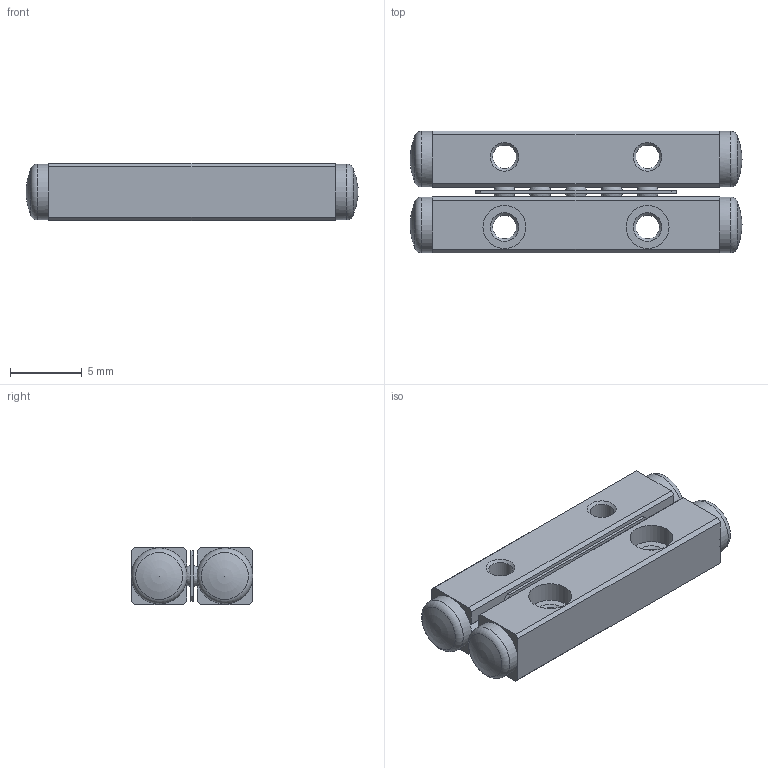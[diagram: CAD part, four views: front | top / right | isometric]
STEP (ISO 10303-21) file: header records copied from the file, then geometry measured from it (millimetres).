
FILE_DESCRIPTION(/* description */ ('STEP AP214'),/* implementation_level */ '2;1');
FILE_NAME(/* name */ 'VB1-20Hx5Z(0)',/* time_stamp */ '2024-09-19T10:02:14+02:00',/* author */ ('License CC BY-ND 4.0'),/* organization */ ('CADENAS'),/* preprocessor_version */ 'ST-DEVELOPER v19.3',/* originating_system */ 'PARTsolutions',/* authorisation */ ' ');
FILE_SCHEMA (('AUTOMOTIVE_DESIGN {1 0 10303 214 3 1 1}'));
Length unit declared in the file: millimetre
Products named in the file (3): VB1-20Hx5Z(0); VR1-20*5Z Ball guide; VR1-20*5Z Ball cage
Assembly tree (3 placements, depth 2):
  VB1-20Hx5Z(0)
    VR1-20*5Z Ball guide  x2
    VR1-20*5Z Ball cage
Bounding box: 23.2 x 8.5 x 4 mm (x, y, z)
Volume: 615.2 mm3; surface area: 954 mm2
Topology: 3 solids, 3 shells, 86 faces, 196 edges, 126 vertices
Faces by surface type: plane 48, cylinder 12, sphere 10, cone 8, torus 8
Full cylindrical faces by diameter (mm): 1.65 x4, 3 x4, 3.9 x4
Entity records: 1420 total; most frequent: DIRECTION 241, CARTESIAN_POINT 224, ORIENTED_EDGE 190, EDGE_CURVE 95, AXIS2_PLACEMENT_3D 89, FACE_BOUND 83, EDGE_LOOP 81, VERTEX_POINT 72
